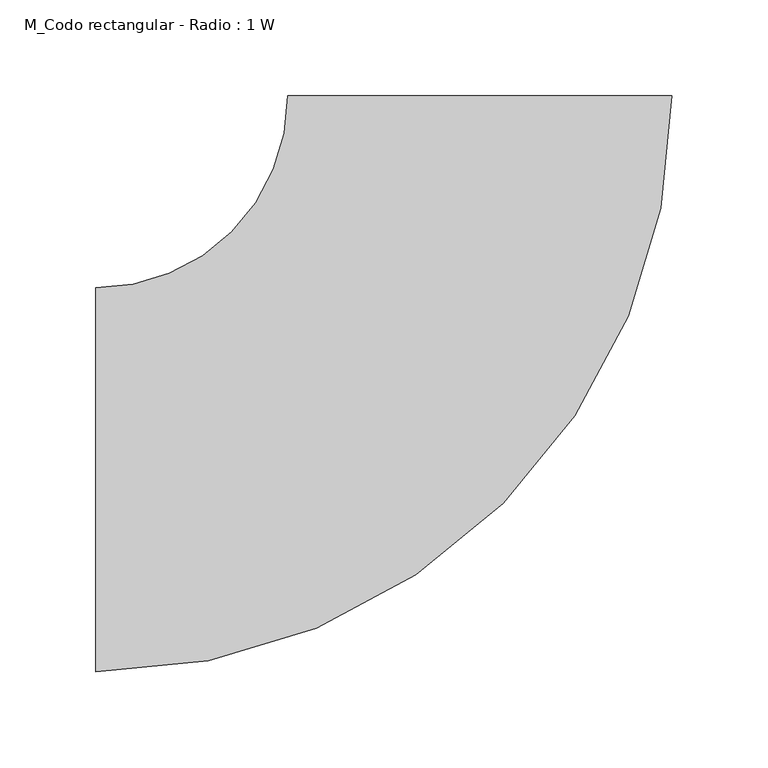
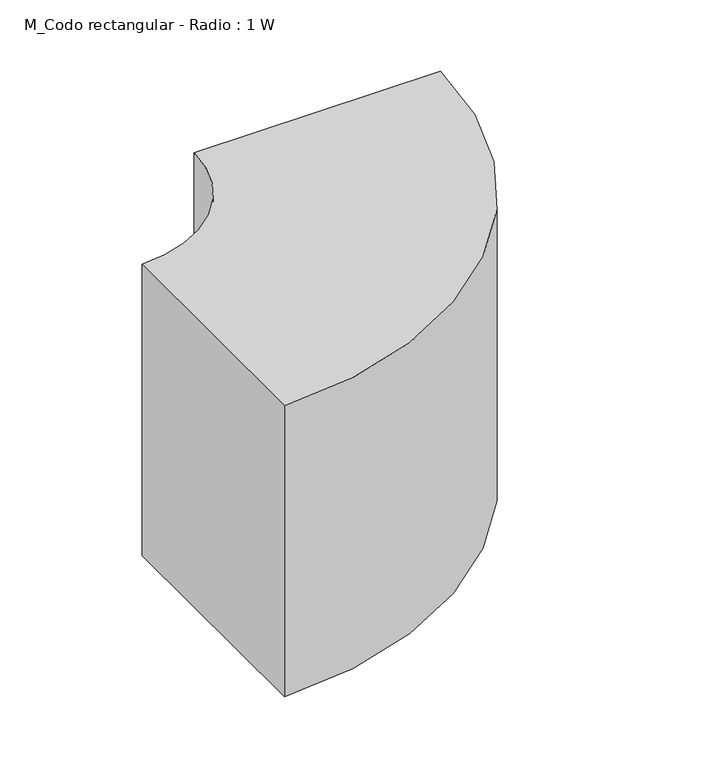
"""IFC4 building model written with IfcOpenShell, lengths in millimetres: duct fitting geometry, M_Codo rectangular - Radio : 1 W."""

from ifc_helpers import new_model, si_unit, point, frame, frame_2d, origin, place, context, project, spatial, polyline, circle_curve, trimmed, segment, composite_curve, outline, extrude, source, transform, mapped, element, save


def m_codo_rectangular_radio_1_w_c8cadc4b(model_context):
    return source(origin(), model_context, "Body", "SweptSolid", [
        extrude(outline(composite_curve([segment(trimmed(circle_curve(frame_2d((-200.0, 200.0)), 300.0), [point((100.0, 200.0))], [point((-200.0, -100.0))], False, "CARTESIAN"), True, "CONTINUOUS"), segment(polyline([(-200.0, -100.0), (-200.0, 100.0)]), True, "CONTINUOUS"), segment(trimmed(circle_curve(frame_2d((-200.0, 200.0)), 100.0), [point((-200.0, 100.0))], [point((-100.0, 200.0))], True, "CARTESIAN"), True, "CONTINUOUS"), segment(polyline([(-100.0, 200.0), (100.0, 200.0)]), True, "CONTINUOUS")], self_intersect=False)), frame((0.0, 0.0, -125.0), z_axis=(0.0, 0.0, 1.0), x_axis=(1.0, 0.0, 0.0)), (0.0, 0.0, 1.0), 250.0),
    ])


if __name__ == "__main__":
    model = new_model("IFC4")
    model_context = context("Model", 3, world=origin())
    ifc_project = project(units=[si_unit("LENGTHUNIT", "METRE", prefix="MILLI")], contexts=[model_context])
    site = spatial("IfcSite", under=ifc_project)
    building = spatial("IfcBuilding", under=site)
    placement = place(None, origin())
    m_codo_rectangular_radio_1_w_shape = m_codo_rectangular_radio_1_w_c8cadc4b(model_context)
    element("IfcDuctFitting", 1, ObjectType="M_Codo rectangular - Radio : 1 W", at=placement, inside=building, context=model_context, shape_type="MappedRepresentation", body=[
        mapped(m_codo_rectangular_radio_1_w_shape, transform((0.0, 0.0, 0.0), x_axis=(1.0, 0.0, 0.0), y_axis=(0.0, 1.0, 0.0), z_axis=(0.0, 0.0, 1.0))),
    ])
    save(model, "model.ifc")
